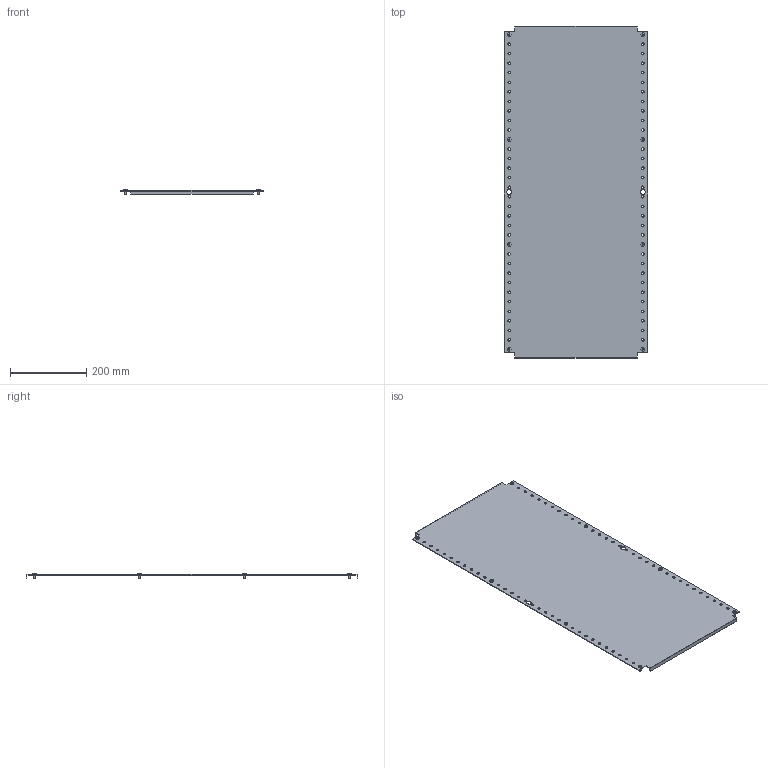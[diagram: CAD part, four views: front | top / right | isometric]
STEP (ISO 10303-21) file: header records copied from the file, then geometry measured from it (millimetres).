
FILE_DESCRIPTION (( 'STEP AP203' ), '1' );
FILE_NAME ('R6MP1045.STEP', '2025-03-28T12:03:34', ( '' ), ( '' ), 'SwSTEP 2.0', 'SolidWorks 2022', '' );
FILE_SCHEMA (( 'CONFIG_CONTROL_DESIGN' ));
Length unit declared in the file: millimetre
Products named in the file (3): M5x12 DIN 7500 C Torx Zinc_stright; R6MP1045; RB.3293.00.00.0_-01
Assembly tree (9 placements, depth 2):
  R6MP1045
    RB.3293.00.00.0_-01
    M5x12 DIN 7500 C Torx Zinc_stright  x8
Bounding box: 375 x 870 x 15.56 mm (x, y, z)
Volume: 592647.3 mm3; surface area: 665318.9 mm2
Topology: 9 solids, 9 shells, 230 faces, 540 edges, 336 vertices
Faces by surface type: plane 94, cylinder 88, torus 16, cone 16, sphere 8, bspline 8
Full cylindrical faces by diameter (mm): 5 x8, 6.5 x68, 9.5 x8
Entity records: 4453 total; most frequent: CARTESIAN_POINT 800, DIRECTION 660, ORIENTED_EDGE 504, EDGE_LOOP 334, AXIS2_PLACEMENT_3D 286, EDGE_CURVE 252, VERTEX_POINT 214, FACE_OUTER_BOUND 192
